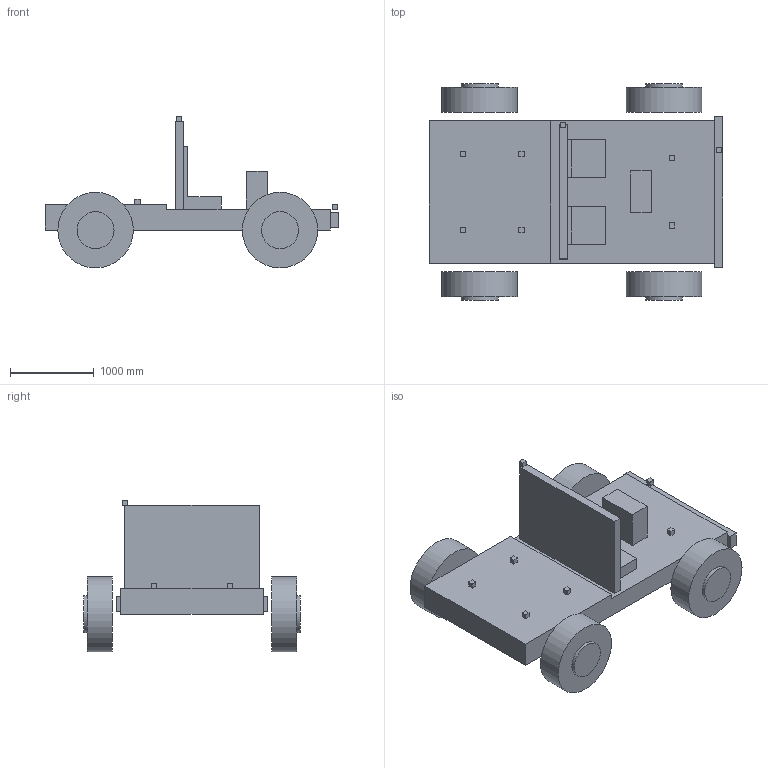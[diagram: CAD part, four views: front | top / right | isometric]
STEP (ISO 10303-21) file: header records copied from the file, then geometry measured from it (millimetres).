
FILE_DESCRIPTION(/* description */ (''),/* implementation_level */ '2;1');
FILE_NAME(/* name */ 'crew_open.step',/* time_stamp */ '2026-11-14T21:13:06+01:00',/* author */ ('malgo'),/* organization */ (''),/* preprocessor_version */ 'ST-DEVELOPER v20.1',/* originating_system */ 'Autodesk Inventor 2026',/* authorisation */ '');
FILE_SCHEMA (('AUTOMOTIVE_DESIGN { 1 0 10303 214 3 1 1 }'));
Length unit declared in the file: metre
Products named in the file (1): crew_open
Bounding box: 3500 x 2580 x 1810 mm (x, y, z)
Volume: 2726763508.3 mm3; surface area: 29647693 mm2
Topology: 17 solids, 17 shells, 110 faces, 218 edges, 144 vertices
Faces by surface type: plane 102, cylinder 8
Full cylindrical faces by diameter (mm): 440 x4, 900 x4
Entity records: 2807 total; most frequent: CARTESIAN_POINT 473, DIRECTION 456, ORIENTED_EDGE 436, EDGE_CURVE 218, LINE 202, VECTOR 202, VERTEX_POINT 144, AXIS2_PLACEMENT_3D 127
